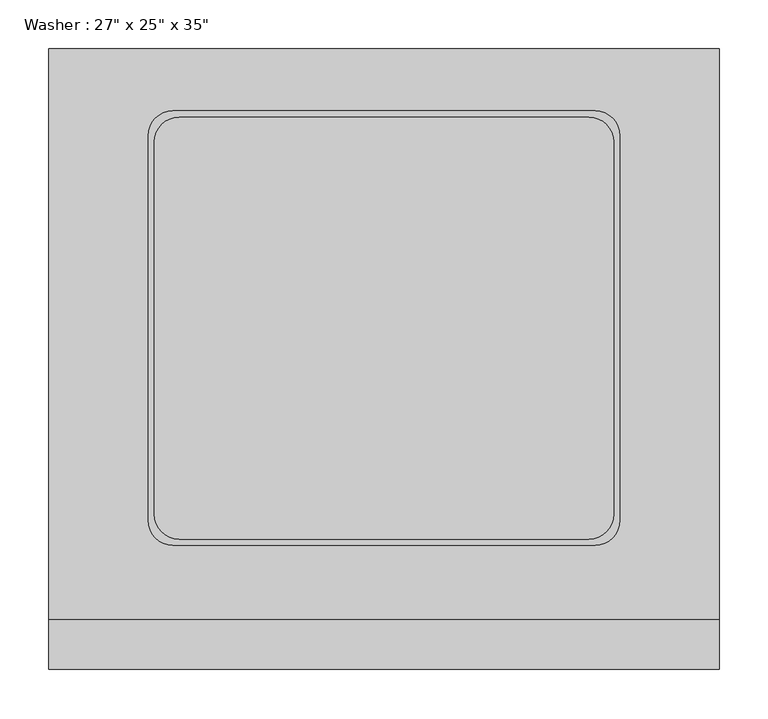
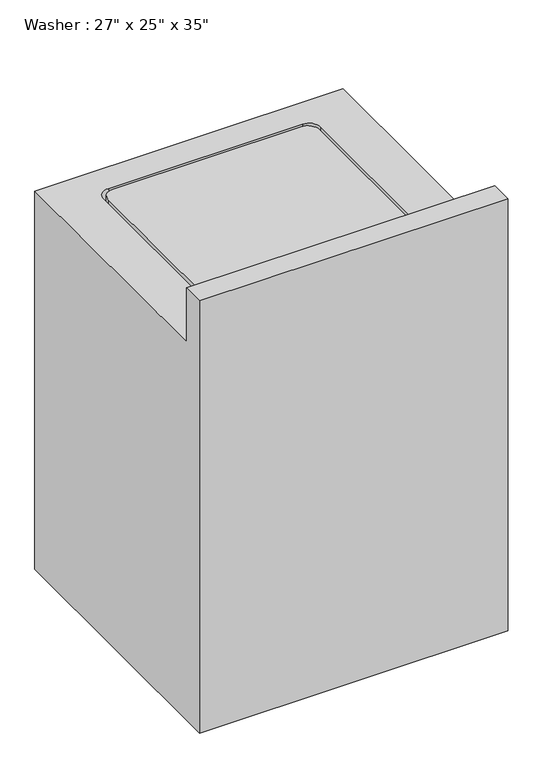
"""IFC4 building model written with IfcOpenShell, lengths in millimetres: proxy geometry."""

from ifc_helpers import new_model, si_unit, point, frame, frame_2d, origin, place, context, project, spatial, polyline, circle_curve, trimmed, segment, composite_curve, outline, extrude, source, transform, mapped, element, save
from ifc_brep_helpers import plane_surface, revolved_surface, advanced_brep


def proxy_1604710b(model_context):
    return source(origin(), model_context, "Body", "SolidModel", [
        extrude(outline(composite_curve([segment(polyline([(185.4674685, -437.8995648), (185.4674685, -56.8995648)]), True, "CONTINUOUS"), segment(trimmed(circle_curve(frame_2d((210.8674685, -56.8995648)), 25.4), [point((185.4674685, -56.8995648))], [point((210.8674685, -31.4995648))], False, "CARTESIAN"), True, "CONTINUOUS"), segment(polyline([(210.8674685, -31.4995648), (629.9674685, -31.4995648)]), True, "CONTINUOUS"), segment(trimmed(circle_curve(frame_2d((629.9674685, -56.8995648)), 25.4), [point((629.9674685, -31.4995648))], [point((655.3674685, -56.8995648))], False, "CARTESIAN"), True, "CONTINUOUS"), segment(polyline([(655.3674685, -56.8995648), (655.3674685, -437.8995648)]), True, "CONTINUOUS"), segment(trimmed(circle_curve(frame_2d((629.9674685, -437.8995648)), 25.4), [point((655.3674685, -437.8995648))], [point((629.9674685, -463.2995648))], False, "CARTESIAN"), True, "CONTINUOUS"), segment(polyline([(629.9674685, -463.2995648), (210.8674685, -463.2995648)]), True, "CONTINUOUS"), segment(trimmed(circle_curve(frame_2d((210.8674685, -437.8995648)), 25.4), [point((210.8674685, -463.2995648))], [point((185.4674685, -437.8995648))], False, "CARTESIAN"), True, "CONTINUOUS")], self_intersect=False)), frame((0.0, 0.0, 863.6), z_axis=(0.0, 0.0, 1.0), x_axis=(1.0, 0.0, 0.0)), (0.0, 0.0, 1.0), 25.4),
        advanced_brep(
        [(77.5174685, -545.8495648, 889.0), (77.5174685, 38.3504352, 889.0), (77.5174685, 38.3504352, 0.0), (77.5174685, -596.6495648, 0.0), (77.5174685, -596.6495648, 1016.0), (77.5174685, -545.8495648, 1016.0), (763.3174685, -596.6495648, 1016.0), (763.3174685, -596.6495648, 0.0), (763.3174685, 38.3504352, 0.0), (763.3174685, 38.3504352, 889.0), (763.3174685, -545.8495648, 889.0), (763.3174685, -545.8495648, 1016.0), (204.5174685, -469.4681955, 889.0), (179.1174685, -444.0681955, 889.0), (179.1174685, -50.5495648, 889.0), (204.5174685, -25.1495648, 889.0), (636.3174685, -25.1495648, 889.0), (661.7174685, -50.5495648, 889.0), (661.7174685, -444.0681955, 889.0), (636.3174685, -469.4681955, 889.0), (636.3174685, -469.4681955, 838.2), (661.7174685, -444.0681955, 838.2), (661.7174685, -50.5495648, 838.2), (636.3174685, -25.1495648, 838.2), (204.5174685, -25.1495648, 838.2), (179.1174685, -50.5495648, 838.2), (179.1174685, -444.0681955, 838.2), (204.5174685, -469.4681955, 838.2)],
        [
            (0, 1),
            (1, 2),
            (2, 3),
            (3, 4),
            (4, 5),
            (5, 0),
            (6, 7),
            (7, 8),
            (8, 9),
            (9, 10),
            (10, 11),
            (11, 6),
            (5, 11),
            (10, 0),
            (4, 6),
            (3, 7),
            (9, 1),
            (12, 13, circle_curve(frame((204.5174685, -444.0681955, 889.0), z_axis=(0.0, 0.0, -1.0), x_axis=(0.0, 1.0, 0.0)), 25.4)),
            (13, 14),
            (14, 15, circle_curve(frame((204.5174685, -50.5495648, 889.0), z_axis=(0.0, 0.0, -1.0), x_axis=(0.0, 1.0, 0.0)), 25.4)),
            (15, 16),
            (16, 17, circle_curve(frame((636.3174685, -50.5495648, 889.0), z_axis=(0.0, 0.0, -1.0), x_axis=(0.0, 1.0, 0.0)), 25.4)),
            (17, 18),
            (18, 19, circle_curve(frame((636.3174685, -444.0681955, 889.0), z_axis=(0.0, 0.0, -1.0), x_axis=(0.0, 1.0, 0.0)), 25.4)),
            (19, 12),
            (2, 8),
            (20, 21, circle_curve(frame((636.3174685, -444.0681955, 838.2), z_axis=(0.0, 0.0, 1.0), x_axis=(0.0, 1.0, 0.0)), 25.4)),
            (21, 22),
            (22, 23, circle_curve(frame((636.3174685, -50.5495648, 838.2), z_axis=(0.0, 0.0, 1.0), x_axis=(0.0, 1.0, 0.0)), 25.4)),
            (23, 24),
            (24, 25, circle_curve(frame((204.5174685, -50.5495648, 838.2), z_axis=(0.0, 0.0, 1.0), x_axis=(0.0, 1.0, 0.0)), 25.4)),
            (25, 26),
            (26, 27, circle_curve(frame((204.5174685, -444.0681955, 838.2), z_axis=(0.0, 0.0, 1.0), x_axis=(0.0, 1.0, 0.0)), 25.4)),
            (27, 20),
            (27, 12),
            (19, 20),
            (26, 13),
            (25, 14),
            (24, 15),
            (23, 16),
            (22, 17),
            (21, 18),
        ],
        [
            plane_surface(frame((77.5174685, -545.8495648, 889.0), z_axis=(-1.0, 0.0, 0.0), x_axis=(0.0, 0.0, 1.0))),
            plane_surface(frame((763.3174685, -545.8495648, 889.0), z_axis=(1.0, 0.0, 0.0), x_axis=(0.0, 0.0, -1.0))),
            plane_surface(frame((77.5174685, -545.8495648, 889.0), z_axis=(0.0, 1.0, 0.0), x_axis=(1.0, 0.0, 0.0))),
            plane_surface(frame((77.5174685, -545.8495648, 1016.0), z_axis=(0.0, 0.0, 1.0), x_axis=(1.0, 0.0, 0.0))),
            plane_surface(frame((77.5174685, -596.6495648, 1016.0), z_axis=(0.0, -1.0, 0.0), x_axis=(1.0, 0.0, 0.0))),
            plane_surface(frame((77.5174685, 38.3504352, 889.0), z_axis=(0.0, 0.0, 1.0), x_axis=(0.0, 1.0, 0.0))),
            plane_surface(frame((77.5174685, 38.3504352, 0.0), z_axis=(0.0, 0.0, -1.0), x_axis=(0.0, -1.0, 0.0))),
            plane_surface(frame((77.5174685, 38.3504352, 889.0), z_axis=(0.0, 1.0, 0.0), x_axis=(0.0, 0.0, -1.0))),
            plane_surface(frame((204.5174685, -469.4681955, 838.2), z_axis=(0.0, 0.0, 1.0), x_axis=(1.0, 0.0, 0.0))),
            plane_surface(frame((636.3174685, -469.4681955, 889.0), z_axis=(0.0, 1.0, 0.0), x_axis=(0.0, 0.0, -1.0))),
            revolved_surface(polyline([(204.5174685, -418.6681955, 889.0), (204.5174685, -418.6681955, 838.2)]), (204.5174685, -444.0681955, 838.2), (0.0, 0.0, 1.0)),
            plane_surface(frame((179.1174685, -444.0681955, 889.0), z_axis=(1.0, 0.0, 0.0), x_axis=(0.0, 0.0, -1.0))),
            revolved_surface(polyline([(204.5174685, -25.1495648, 889.0), (204.5174685, -25.1495648, 838.2)]), (204.5174685, -50.5495648, 838.2), (0.0, 0.0, 1.0)),
            plane_surface(frame((204.5174685, -25.1495648, 889.0), z_axis=(0.0, -1.0, 0.0), x_axis=(0.0, 0.0, -1.0))),
            revolved_surface(polyline([(636.3174685, -25.1495648, 889.0), (636.3174685, -25.1495648, 838.2)]), (636.3174685, -50.5495648, 838.2), (0.0, 0.0, 1.0)),
            plane_surface(frame((661.7174685, -50.5495648, 889.0), z_axis=(-1.0, 0.0, 0.0), x_axis=(0.0, 0.0, -1.0))),
            revolved_surface(polyline([(636.3174685, -418.6681955, 889.0), (636.3174685, -418.6681955, 838.2)]), (636.3174685, -444.0681955, 838.2), (0.0, 0.0, 1.0)),
        ],
        [
            (0, [[1, 2, 3, 4, 5, 6]]),
            (1, [[7, 8, 9, 10, 11, 12]]),
            (2, [[13, -11, 14, -6]]),
            (3, [[15, -12, -13, -5]]),
            (4, [[-4, 16, -7, -15]]),
            (5, [[-1, -14, -10, 17], [18, 19, 20, 21, 22, 23, 24, 25]]),
            (6, [[-3, 26, -8, -16]]),
            (7, [[-9, -26, -2, -17]]),
            (8, [[27, 28, 29, 30, 31, 32, 33, 34]]),
            (9, [[35, -25, 36, -34]]),
            (10, [[37, -18, -35, -33]]),
            (11, [[38, -19, -37, -32]]),
            (12, [[39, -20, -38, -31]]),
            (13, [[40, -21, -39, -30]]),
            (14, [[41, -22, -40, -29]]),
            (15, [[42, -23, -41, -28]]),
            (16, [[-36, -24, -42, -27]]),
        ],
    ),
    ])


if __name__ == "__main__":
    model = new_model("IFC4")
    model_context = context("Model", 3, world=origin())
    ifc_project = project(units=[si_unit("LENGTHUNIT", "METRE", prefix="MILLI")], contexts=[model_context])
    site = spatial("IfcSite", under=ifc_project)
    building = spatial("IfcBuilding", under=site)
    placement = place(None, origin())
    proxy_shape = proxy_1604710b(model_context)
    element("IfcBuildingElementProxy", 1, Name="Washer : 27\" x 25\" x 35\"", ObjectType="Washer : 27\" x 25\" x 35\"", at=placement, inside=building, context=model_context, shape_type="MappedRepresentation", body=[
        mapped(proxy_shape, transform((0.0, 0.0, 0.0), x_axis=(1.0, 0.0, 0.0), y_axis=(0.0, 1.0, 0.0), z_axis=(0.0, 0.0, 1.0))),
    ])
    save(model, "model.ifc")
